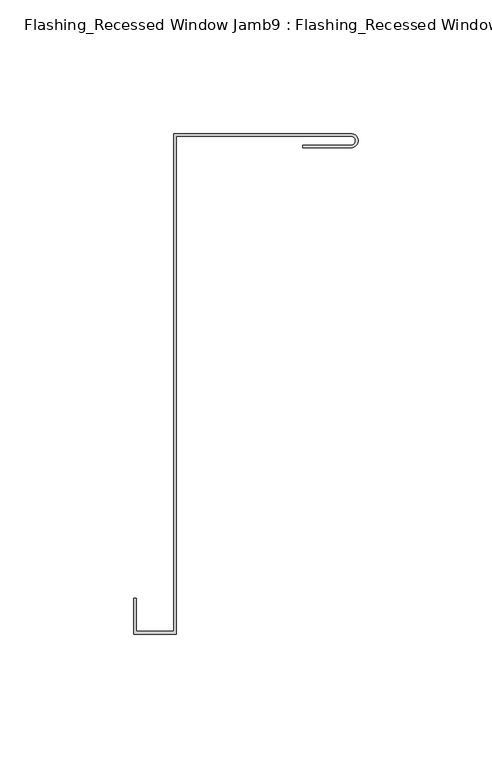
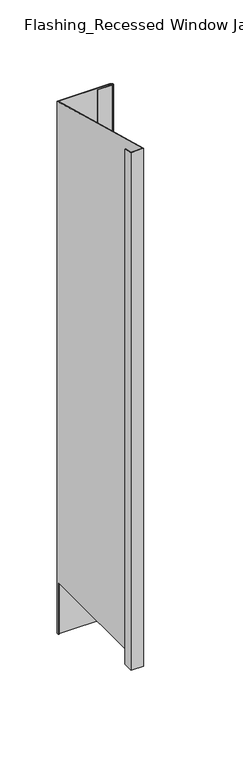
"""IFC4 building model written with IfcOpenShell, lengths in millimetres: proxy geometry, Flashing_Recessed Window Jamb9 : Flashing_Recessed Window Jamb."""

from ifc_helpers import new_model, si_unit, frame, origin, place, context, project, spatial, polyline, circle_curve, ellipse_curve, source, transform, mapped, element, save
from ifc_brep_helpers import plane_surface, cylinder_surface, revolved_surface, advanced_brep


def flashing_recessed_window_jamb9_flashing_recessed_window_jamb_3639ca6a(model_context):
    return source(origin(), model_context, "Body", "AdvancedBrep", [
        advanced_brep(
        [(13582.5936679, -23646.8591805, -1055.1751138), (13517.2186679, -23646.8591805, -1055.1751138), (13517.2186679, -23647.7910321, -1055.1751138), (13516.2186679, -23647.7910321, -1055.1751138), (13516.2186679, -23645.8591805, -1055.1751138), (13582.5936679, -23645.8591805, -1055.1751138), (13582.5936679, -23651.2009124, -1055.1751138), (13582.3502717, -23651.2009124, -1055.1751138), (13582.3502717, -23650.2009124, -1055.1751138), (13582.5936679, -23650.2009124, -1055.1751138), (13516.2186679, -23645.8591805, -343.2151173), (13582.5936679, -23645.8591805, -343.2151173), (13516.2186679, -23647.7910321, -985.662203), (13516.2186679, -23832.2321624, -985.662203), (13516.2186679, -23832.2321624, -293.2766273), (13502.2186679, -23832.2321624, -293.2766273), (13502.2186679, -23832.2321624, -985.662203), (13502.2186679, -23819.906434, -296.5792963), (13502.2186679, -23819.906434, -985.662203), (13501.2186679, -23819.906434, -296.5792963), (13501.2186679, -23819.906434, -985.662203), (13501.2186679, -23833.2321624, -293.0086781), (13501.2186679, -23833.2321624, -985.662203), (13517.2186679, -23833.2321624, -293.0086781), (13517.2186679, -23833.2321624, -985.662203), (13517.2186679, -23646.8591805, -342.9471681), (13517.2186679, -23647.7910321, -985.662203), (13582.5936679, -23646.8591805, -342.9471681), (13582.5936679, -23651.2009124, -341.7838046), (13564.5619619, -23651.2009124, -341.7838046), (13564.5619619, -23651.2009124, -985.662203), (13582.3502717, -23651.2009124, -985.662203), (13564.5619619, -23650.2009124, -342.0517537), (13564.5619619, -23650.2009124, -985.662203), (13582.5936679, -23650.2009124, -342.0517537), (13582.3502717, -23650.2009124, -985.662203)],
        [
            (0, 1),
            (1, 2),
            (2, 3),
            (3, 4),
            (4, 5),
            (5, 6, circle_curve(frame((13582.5936679, -23648.5300465, -1055.1751138), z_axis=(0.0, 0.0, -1.0), x_axis=(1.0, 0.0, 0.0)), 2.670866)),
            (6, 7),
            (7, 8),
            (8, 9),
            (9, 0, circle_curve(frame((13582.5936679, -23648.5300465, -1055.1751138), z_axis=(0.0, 0.0, 1.0), x_axis=(1.0, 0.0, 0.0)), 1.670866)),
            (4, 10),
            (10, 11),
            (11, 5),
            (3, 12),
            (12, 13),
            (13, 14),
            (14, 10),
            (15, 14),
            (13, 16),
            (16, 15),
            (17, 15),
            (16, 18),
            (18, 17),
            (19, 17),
            (18, 20),
            (20, 19),
            (21, 19),
            (20, 22),
            (22, 21),
            (23, 21),
            (22, 24),
            (24, 23),
            (1, 25),
            (25, 23),
            (24, 26),
            (26, 2),
            (0, 27),
            (27, 25),
            (6, 28),
            (28, 29),
            (29, 30),
            (30, 31),
            (31, 7),
            (29, 32),
            (32, 33),
            (33, 30),
            (34, 9),
            (8, 35),
            (35, 33),
            (32, 34),
            (34, 27, ellipse_curve(frame((13582.5936679, -23648.5300465, -342.4994609), z_axis=(0.0, 0.2588190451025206, 0.9659258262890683), x_axis=(0.0, 0.9659258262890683, -0.25881904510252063)), 1.7298077, 1.670866)),
            (11, 28, ellipse_curve(frame((13582.5936679, -23648.5300465, -342.4994609), z_axis=(0.0, -0.2588190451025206, -0.9659258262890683), x_axis=(0.0, -0.9659258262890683, 0.25881904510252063)), 2.7650839, 2.670866)),
            (12, 26),
            (35, 31),
        ],
        [
            plane_surface(frame((13501.2186679, -23832.2321624, -1055.1751138), z_axis=(0.0, 0.0, -1.0), x_axis=(1.0, 0.0, 0.0))),
            plane_surface(frame((13582.5936679, -23645.8591805, -277.6721404), z_axis=(0.0, 1.0, 0.0), x_axis=(0.0, 0.0, -1.0))),
            plane_surface(frame((13516.2186679, -23645.8591805, -277.6721404), z_axis=(-1.0, 0.0, 0.0), x_axis=(0.0, 0.0, -1.0))),
            plane_surface(frame((13516.2186679, -23832.2321624, -277.6721404), z_axis=(0.0, 1.0, 0.0), x_axis=(0.0, 0.0, -1.0))),
            plane_surface(frame((13502.2186679, -23832.2321624, -277.6721404), z_axis=(1.0, 0.0, 0.0), x_axis=(0.0, 0.0, -1.0))),
            plane_surface(frame((13502.2186679, -23819.906434, -277.6721404), z_axis=(0.0, 1.0, 0.0), x_axis=(0.0, 0.0, -1.0))),
            plane_surface(frame((13501.2186679, -23819.906434, -277.6721404), z_axis=(-1.0, 0.0, 0.0), x_axis=(0.0, 0.0, -1.0))),
            plane_surface(frame((13501.2186679, -23833.2321624, -277.6721404), z_axis=(0.0, -1.0, 0.0), x_axis=(0.0, 0.0, -1.0))),
            plane_surface(frame((13517.2186679, -23833.2321624, -277.6721404), z_axis=(1.0, 0.0, 0.0), x_axis=(0.0, 0.0, -1.0))),
            plane_surface(frame((13517.2186679, -23646.8591805, -277.6721404), z_axis=(0.0, -1.0, 0.0), x_axis=(0.0, 0.0, -1.0))),
            plane_surface(frame((13564.5619619, -23651.2009124, -277.6721404), z_axis=(0.0, -1.0, 0.0), x_axis=(0.0, 0.0, -1.0))),
            plane_surface(frame((13564.5619619, -23650.2009124, -277.6721404), z_axis=(-1.0, 0.0, 0.0), x_axis=(0.0, 0.0, -1.0))),
            plane_surface(frame((13582.5936679, -23650.2009124, -277.6721404), z_axis=(0.0, 1.0, 0.0), x_axis=(0.0, 0.0, -1.0))),
            revolved_surface(polyline([(13584.264533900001, -23648.5300465, -1055.1751138), (13584.264533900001, -23648.5300465, -342.05175370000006)]), (13582.5936679, -23648.5300465, -1055.1751138), (0.0, 0.0, -1.0)),
            cylinder_surface(frame((13582.5936679, -23648.5300465, -1055.1751138), z_axis=(0.0, 0.0, 1.0), x_axis=(1.0, 0.0, 0.0)), 2.670866),
            plane_surface(frame((13406.2186679, -23622.3277831, -349.5203362), z_axis=(0.0, 0.2588190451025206, 0.9659258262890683), x_axis=(1.0, 0.0, 0.0))),
            plane_surface(frame((13582.3502717, -23847.7910321, -985.662203), z_axis=(0.0, 0.0, -1.0), x_axis=(0.0, 1.0, 0.0))),
            plane_surface(frame((13582.3502717, -23847.7910321, -985.662203), z_axis=(-1.0, 0.0, 0.0), x_axis=(0.0, 0.0, -1.0))),
            plane_surface(frame((13582.3502717, -23647.7910321, -985.662203), z_axis=(0.0, -1.0, 0.0), x_axis=(0.0, 0.0, -1.0))),
        ],
        [
            (0, [[1, 2, 3, 4, 5, 6, 7, 8, 9, 10]]),
            (1, [[-5, 11, 12, 13]]),
            (2, [[-11, -4, 14, 15, 16, 17]]),
            (3, [[18, -16, 19, 20]]),
            (4, [[21, -20, 22, 23]]),
            (5, [[24, -23, 25, 26]]),
            (6, [[27, -26, 28, 29]]),
            (7, [[30, -29, 31, 32]]),
            (8, [[33, 34, -32, 35, 36, -2]]),
            (9, [[-1, 37, 38, -33]]),
            (10, [[39, 40, 41, 42, 43, -7]]),
            (11, [[44, 45, 46, -41]]),
            (12, [[47, -9, 48, 49, -45, 50]]),
            (13, [[-10, -47, 51, -37]]),
            (14, [[-6, -13, 52, -39]]),
            (15, [[-12, -17, -18, -21, -24, -27, -30, -34, -38, -51, -50, -44, -40, -52]]),
            (16, [[53, -35, -31, -28, -25, -22, -19, -15]]),
            (16, [[54, -42, -46, -49]]),
            (17, [[-54, -48, -8, -43]]),
            (18, [[-53, -14, -3, -36]]),
        ],
    ),
    ])


if __name__ == "__main__":
    model = new_model("IFC4")
    model_context = context("Model", 3, world=origin())
    ifc_project = project(units=[si_unit("LENGTHUNIT", "METRE", prefix="MILLI")], contexts=[model_context])
    site = spatial("IfcSite", under=ifc_project)
    building = spatial("IfcBuilding", under=site)
    placement = place(None, origin())
    flashing_recessed_window_jamb9_flashing_recessed_window_jamb_shape = flashing_recessed_window_jamb9_flashing_recessed_window_jamb_3639ca6a(model_context)
    element("IfcBuildingElementProxy", 1, Name="Flashing_Recessed Window Jamb9 : Flashing_Recessed Window Jamb", ObjectType="Flashing_Recessed Window Jamb9 : Flashing_Recessed Window Jamb", at=placement, inside=building, context=model_context, shape_type="MappedRepresentation", body=[
        mapped(flashing_recessed_window_jamb9_flashing_recessed_window_jamb_shape, transform((0.0, 0.0, 0.0), x_axis=(1.0, 0.0, 0.0), y_axis=(0.0, 1.0, 0.0), z_axis=(0.0, 0.0, 1.0))),
    ])
    save(model, "model.ifc")
